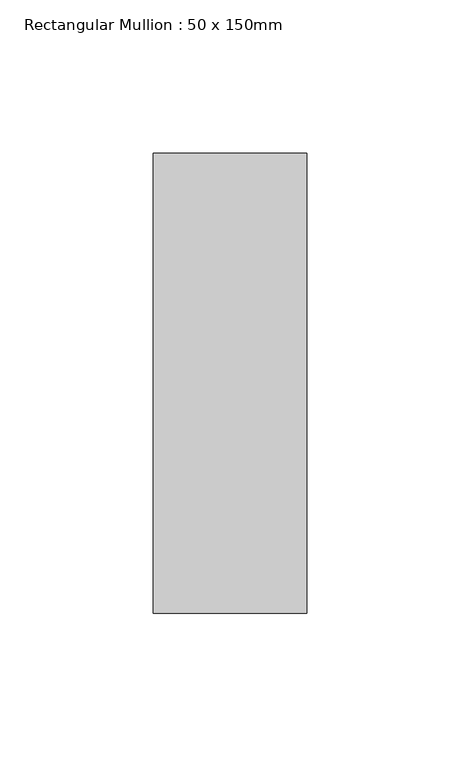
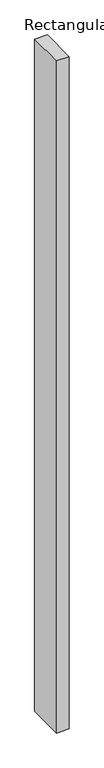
"""IFC4 building model written with IfcOpenShell, lengths in millimetres: member geometry, Rectangular Mullion : 50 x 150mm."""

from ifc_helpers import new_model, si_unit, frame, origin, place, context, project, spatial, polyline, outline, extrude, source, transform, mapped, element, save


def rectangular_mullion_50_x_150mm_6d604593(model_context):
    return source(origin(), model_context, "Body", "SweptSolid", [
        extrude(outline(polyline([(25.0, 75.0), (25.0, -75.0), (-25.0, -75.0), (-25.0, 75.0), (25.0, 75.0)])), frame((0.0, 0.0, -2809.5604964), z_axis=(0.0, 0.0, 1.0), x_axis=(1.0, 0.0, 0.0)), (0.0, 0.0, 1.0), 2809.5604964),
    ])


if __name__ == "__main__":
    model = new_model("IFC4")
    model_context = context("Model", 3, world=origin())
    ifc_project = project(units=[si_unit("LENGTHUNIT", "METRE", prefix="MILLI")], contexts=[model_context])
    site = spatial("IfcSite", under=ifc_project)
    building = spatial("IfcBuilding", under=site)
    placement = place(None, origin())
    rectangular_mullion_50_x_150mm_shape = rectangular_mullion_50_x_150mm_6d604593(model_context)
    element("IfcMember", 1, ObjectType="Rectangular Mullion : 50 x 150mm", at=placement, inside=building, context=model_context, shape_type="MappedRepresentation", body=[
        mapped(rectangular_mullion_50_x_150mm_shape, transform((0.0, 0.0, 0.0), x_axis=(1.0, 0.0, 0.0), y_axis=(0.0, 1.0, 0.0), z_axis=(0.0, 0.0, 1.0))),
    ])
    save(model, "model.ifc")
